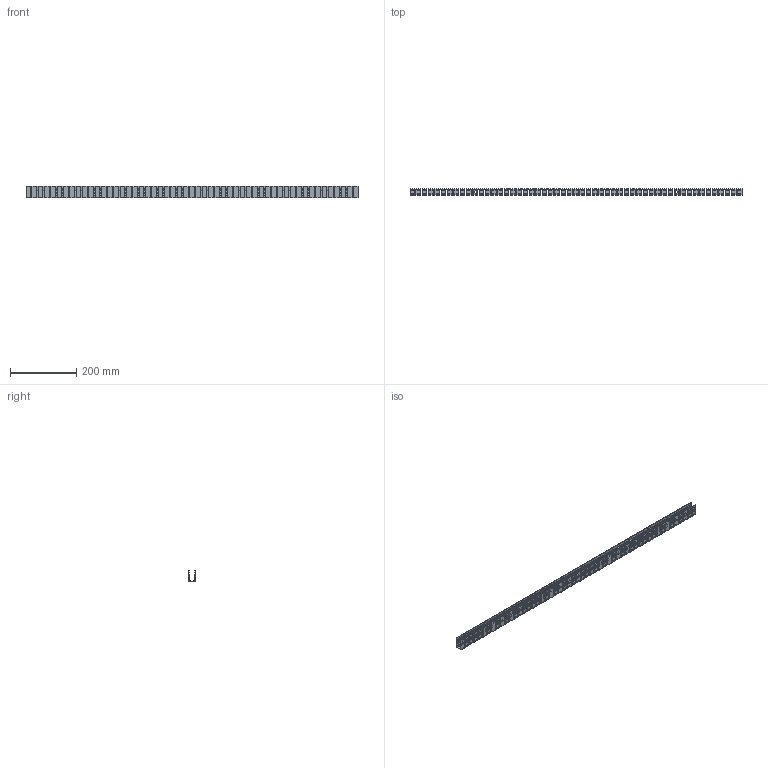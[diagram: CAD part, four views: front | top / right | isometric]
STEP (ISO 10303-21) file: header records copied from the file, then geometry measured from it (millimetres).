
FILE_DESCRIPTION(/* description */ (''),/* implementation_level */ '2;1');
FILE_NAME(/* name */ 'LF_SILICONE_CURVED_PROFILE_CABLE_DUCT_SIDE_BEND_L1000_R01.step',/* time_stamp */ '2026-08-18T15:11:58+02:00',/* author */ (''),/* organization */ (''),/* preprocessor_version */ 'ST-DEVELOPER v20.1',/* originating_system */ 'Autodesk Translation Framework v15.8.0.0',/* authorisation */ '');
FILE_SCHEMA (('AUTOMOTIVE_DESIGN { 1 0 10303 214 3 1 1 }'));
Products named in the file (1): LF_SILICONE_CURVED_PROFILE_CABLE_DUCT_SIDE_BEND_R01
Bounding box: 1000 x 20.2 x 35 mm (x, y, z)
Volume: 102108.2 mm3; surface area: 174315.8 mm2
Topology: 1 solids, 1 shells, 2726 faces, 8172 edges, 5448 vertices
Faces by surface type: plane 1812, cylinder 914
Entity records: 91993 total; most frequent: CARTESIAN_POINT 16347, ORIENTED_EDGE 16344, DIRECTION 15662, EDGE_CURVE 8172, LINE 6136, VECTOR 6136, VERTEX_POINT 5448, AXIS2_PLACEMENT_3D 4763
